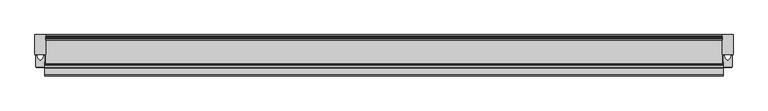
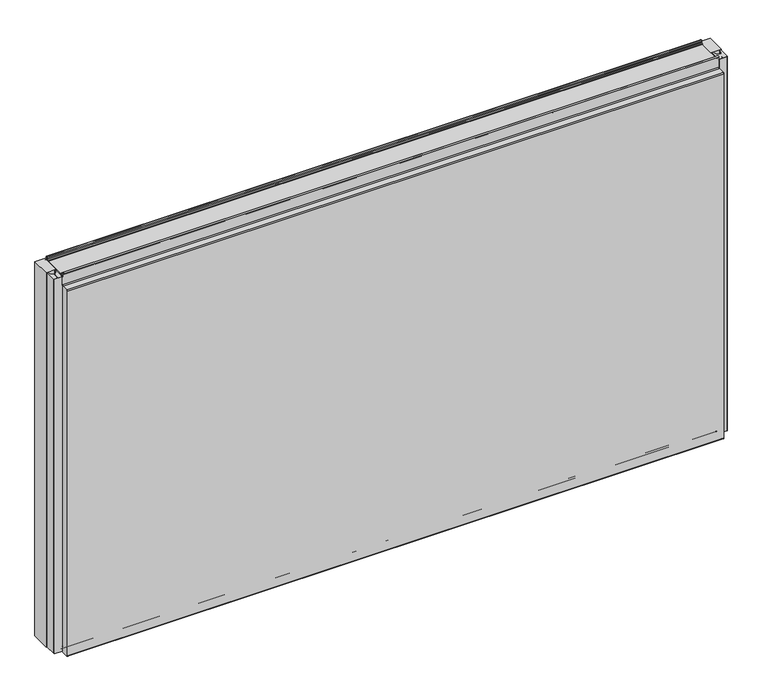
"""IFC4 building model written with IfcOpenShell, lengths in millimetres: plate geometry, Fronttop : Fronttop 120/1190."""

from ifc_helpers import new_model, si_unit, point, frame, frame_2d, origin, origin_with_axes, place, context, project, spatial, polyline, circle_curve, trimmed, segment, composite_curve, outline, extrude, source, transform, mapped, element, save
from ifc_brep_helpers import plane_surface, cylinder_surface, revolved_surface, advanced_brep


def plate_62cb37a9(model_context):
    return source(origin(), model_context, "Body", "SolidModel", [
        advanced_brep(
        [(-986.5, -94.0, 1198.0), (-986.5, -94.0, 1190.0), (-986.5, -95.0, 1190.0), (-986.5, -95.0, 1198.0), (-986.5, -90.0, 1198.0), (-986.5, -90.0, 1194.0), (-986.5, -87.0, 1191.0), (-986.5, -85.0, 1191.0), (-986.5, -85.0, 1190.0), (-986.5, -87.0, 1190.0), (-986.5, -91.0, 1194.0), (-986.5, -91.0, 1198.0), (986.5, -95.0, 1198.0), (986.5, -95.0, 1190.0), (986.5, -94.0, 1190.0), (986.5, -94.0, 1198.0), (986.5, -91.0, 1198.0), (986.5, -91.0, 1194.0), (986.5, -87.0, 1190.0), (986.5, -85.0, 1190.0), (986.5, -85.0, 1191.0), (986.5, -87.0, 1191.0), (986.5, -90.0, 1194.0), (986.5, -90.0, 1198.0), (-986.5, -87.0, 2.0), (-986.5, -85.0, 2.0), (986.5, -85.0, 2.0), (986.5, -87.0, 2.0), (986.5, -89.0, 4.0), (-986.5, -89.0, 4.0), (986.5, -89.0, 8.0), (-986.5, -89.0, 8.0), (986.5, -96.0, 8.0), (-986.5, -96.0, 8.0), (986.5, -96.0, 0.0), (-986.5, -96.0, 0.0), (986.5, -99.0, -3.0), (-986.5, -99.0, -3.0), (986.5, -95.0, -3.0), (987.5, -95.0, -3.0), (987.5, -117.0, -3.0), (986.5, -117.0, -3.0), (-986.5, -117.0, -3.0), (-987.5, -117.0, -3.0), (-987.5, -95.0, -3.0), (-986.5, -95.0, -3.0), (986.5, -120.0, 0.0), (-986.5, -120.0, 0.0), (987.5, -120.0, 0.0), (987.5, -120.0, 1159.0), (986.5, -120.0, 1159.0), (-986.5, -120.0, 1159.0), (-987.5, -120.0, 1159.0), (-987.5, -120.0, 0.0), (986.5, -117.0, 1162.0), (-986.5, -117.0, 1162.0), (987.5, -117.0, 1162.0), (987.5, -98.0, 1162.0), (986.5, -98.0, 1162.0), (-986.5, -98.0, 1162.0), (-987.5, -98.0, 1162.0), (-987.5, -117.0, 1162.0), (986.5, -95.0, 1165.0), (-986.5, -95.0, 1165.0), (987.5, -95.0, 1165.0), (987.5, -95.0, 1190.0), (-987.5, -95.0, 1190.0), (-987.5, -95.0, 1165.0), (986.5, -94.0, 1165.0), (-986.5, -94.0, 1165.0), (986.5, -98.0, 1161.0), (-986.5, -98.0, 1161.0), (986.5, -117.0, 1161.0), (-986.5, -117.0, 1161.0), (986.5, -119.0, 1159.0), (-986.5, -119.0, 1159.0), (986.5, -119.0, 0.0), (-986.5, -119.0, 0.0), (986.5, -117.0, -2.0), (-986.5, -117.0, -2.0), (986.5, -99.0, -2.0), (-986.5, -99.0, -2.0), (986.5, -97.0, 0.0), (-986.5, -97.0, 0.0), (986.5, -97.0, 8.0), (-986.5, -97.0, 8.0), (986.5, -88.0, 8.0), (-986.5, -88.0, 8.0), (986.5, -88.0, 4.0), (-986.5, -88.0, 4.0), (986.5, -87.0, 3.0), (-986.5, -87.0, 3.0), (986.5, -85.0, 3.0), (-986.5, -85.0, 3.0), (987.5, -95.0, 0.0), (987.5, -80.0, 0.0), (987.5, -80.0, 1190.0), (986.5, -80.0, 1190.0), (986.5, -80.0, 0.0), (986.5, -95.0, 0.0), (-987.5, -80.0, 1190.0), (-987.5, -80.0, 0.0), (-987.5, -95.0, 0.0), (-986.5, -80.0, 1190.0), (-986.5, -95.0, 0.0), (-986.5, -80.0, 0.0)],
        [
            (0, 1),
            (1, 2),
            (2, 3),
            (3, 4, circle_curve(frame((-986.5, -92.5, 1198.0), z_axis=(-1.0, 0.0, 0.0), x_axis=(0.0, 1.0, 0.0)), 2.5)),
            (4, 5),
            (5, 6, circle_curve(frame((-986.5, -87.0, 1194.0), z_axis=(1.0, 0.0, 0.0), x_axis=(0.0, 1.0, 0.0)), 3.0)),
            (6, 7),
            (7, 8),
            (8, 9),
            (9, 10, circle_curve(frame((-986.5, -87.0, 1194.0), z_axis=(-1.0, 0.0, 0.0), x_axis=(0.0, 1.0, 0.0)), 4.0)),
            (10, 11),
            (11, 0, circle_curve(frame((-986.5, -92.5, 1198.0), z_axis=(1.0, 0.0, 0.0), x_axis=(0.0, 1.0, 0.0)), 1.5)),
            (12, 13),
            (13, 14),
            (14, 15),
            (15, 16, circle_curve(frame((986.5, -92.5, 1198.0), z_axis=(-1.0, 0.0, 0.0), x_axis=(0.0, 1.0, 0.0)), 1.5)),
            (16, 17),
            (17, 18, circle_curve(frame((986.5, -87.0, 1194.0), z_axis=(1.0, 0.0, 0.0), x_axis=(0.0, 1.0, 0.0)), 4.0)),
            (18, 19),
            (19, 20),
            (20, 21),
            (21, 22, circle_curve(frame((986.5, -87.0, 1194.0), z_axis=(-1.0, 0.0, 0.0), x_axis=(0.0, 1.0, 0.0)), 3.0)),
            (22, 23),
            (23, 12, circle_curve(frame((986.5, -92.5, 1198.0), z_axis=(1.0, 0.0, 0.0), x_axis=(0.0, 1.0, 0.0)), 2.5)),
            (24, 25),
            (25, 26),
            (26, 27),
            (27, 24),
            (27, 28, circle_curve(frame((986.5, -87.0, 4.0), z_axis=(-1.0, 0.0, 0.0), x_axis=(0.0, 1.0, 0.0)), 2.0)),
            (28, 29),
            (29, 24, circle_curve(frame((-986.5, -87.0, 4.0), z_axis=(1.0, 0.0, 0.0), x_axis=(0.0, 1.0, 0.0)), 2.0)),
            (28, 30),
            (30, 31),
            (31, 29),
            (30, 32, circle_curve(frame((986.5, -92.5, 8.0), z_axis=(1.0, 0.0, 0.0), x_axis=(0.0, 1.0, 0.0)), 3.5)),
            (32, 33),
            (33, 31, circle_curve(frame((-986.5, -92.5, 8.0), z_axis=(-1.0, 0.0, 0.0), x_axis=(0.0, 1.0, 0.0)), 3.5)),
            (32, 34),
            (34, 35),
            (35, 33),
            (34, 36, circle_curve(frame((986.5, -99.0, 0.0), z_axis=(-1.0, 0.0, 0.0), x_axis=(0.0, 1.0, 0.0)), 3.0)),
            (36, 37),
            (37, 35, circle_curve(frame((-986.5, -99.0, 0.0), z_axis=(1.0, 0.0, 0.0), x_axis=(0.0, 1.0, 0.0)), 3.0)),
            (36, 38),
            (38, 39),
            (39, 40),
            (40, 41),
            (41, 42),
            (42, 43),
            (43, 44),
            (44, 45),
            (45, 37),
            (41, 46, circle_curve(frame((986.5, -117.0, 0.0), z_axis=(-1.0, 0.0, 0.0), x_axis=(0.0, 1.0, 0.0)), 3.0)),
            (46, 47),
            (47, 42, circle_curve(frame((-986.5, -117.0, 0.0), z_axis=(1.0, 0.0, 0.0), x_axis=(0.0, 1.0, 0.0)), 3.0)),
            (46, 48),
            (48, 49),
            (49, 50),
            (50, 51),
            (51, 52),
            (52, 53),
            (53, 47),
            (50, 54, circle_curve(frame((986.5, -117.0, 1159.0), z_axis=(-1.0, 0.0, 0.0), x_axis=(0.0, 1.0, 0.0)), 3.0)),
            (54, 55),
            (55, 51, circle_curve(frame((-986.5, -117.0, 1159.0), z_axis=(1.0, 0.0, 0.0), x_axis=(0.0, 1.0, 0.0)), 3.0)),
            (54, 56),
            (56, 57),
            (57, 58),
            (58, 59),
            (59, 60),
            (60, 61),
            (61, 55),
            (58, 62, circle_curve(frame((986.5, -98.0, 1165.0), z_axis=(1.0, 0.0, 0.0), x_axis=(0.0, 1.0, 0.0)), 3.0)),
            (62, 63),
            (63, 59, circle_curve(frame((-986.5, -98.0, 1165.0), z_axis=(-1.0, 0.0, 0.0), x_axis=(0.0, 1.0, 0.0)), 3.0)),
            (62, 64),
            (64, 65),
            (65, 13),
            (12, 3),
            (2, 66),
            (66, 67),
            (67, 63),
            (23, 4),
            (22, 5),
            (21, 6),
            (20, 7),
            (19, 8),
            (19, 18),
            (18, 9),
            (9, 8),
            (17, 10),
            (16, 11),
            (15, 0),
            (14, 68),
            (68, 69),
            (69, 1),
            (68, 70, circle_curve(frame((986.5, -98.0, 1165.0), z_axis=(-1.0, 0.0, 0.0), x_axis=(0.0, 1.0, 0.0)), 4.0)),
            (70, 71),
            (71, 69, circle_curve(frame((-986.5, -98.0, 1165.0), z_axis=(1.0, 0.0, 0.0), x_axis=(0.0, 1.0, 0.0)), 4.0)),
            (70, 72),
            (72, 73),
            (73, 71),
            (72, 74, circle_curve(frame((986.5, -117.0, 1159.0), z_axis=(1.0, 0.0, 0.0), x_axis=(0.0, 1.0, 0.0)), 2.0)),
            (74, 75),
            (75, 73, circle_curve(frame((-986.5, -117.0, 1159.0), z_axis=(-1.0, 0.0, 0.0), x_axis=(0.0, 1.0, 0.0)), 2.0)),
            (74, 76),
            (76, 77),
            (77, 75),
            (76, 78, circle_curve(frame((986.5, -117.0, 0.0), z_axis=(1.0, 0.0, 0.0), x_axis=(0.0, 1.0, 0.0)), 2.0)),
            (78, 79),
            (79, 77, circle_curve(frame((-986.5, -117.0, 0.0), z_axis=(-1.0, 0.0, 0.0), x_axis=(0.0, 1.0, 0.0)), 2.0)),
            (78, 80),
            (80, 81),
            (81, 79),
            (80, 82, circle_curve(frame((986.5, -99.0, 0.0), z_axis=(1.0, 0.0, 0.0), x_axis=(0.0, 1.0, 0.0)), 2.0)),
            (82, 83),
            (83, 81, circle_curve(frame((-986.5, -99.0, 0.0), z_axis=(-1.0, 0.0, 0.0), x_axis=(0.0, 1.0, 0.0)), 2.0)),
            (82, 84),
            (84, 85),
            (85, 83),
            (84, 86, circle_curve(frame((986.5, -92.5, 8.0), z_axis=(-1.0, 0.0, 0.0), x_axis=(0.0, 1.0, 0.0)), 4.5)),
            (86, 87),
            (87, 85, circle_curve(frame((-986.5, -92.5, 8.0), z_axis=(1.0, 0.0, 0.0), x_axis=(0.0, 1.0, 0.0)), 4.5)),
            (86, 88),
            (88, 89),
            (89, 87),
            (88, 90, circle_curve(frame((986.5, -87.0, 4.0), z_axis=(1.0, 0.0, 0.0), x_axis=(0.0, 1.0, 0.0)), 1.0)),
            (90, 91),
            (91, 89, circle_curve(frame((-986.5, -87.0, 4.0), z_axis=(-1.0, 0.0, 0.0), x_axis=(0.0, 1.0, 0.0)), 1.0)),
            (90, 92),
            (92, 93),
            (93, 91),
            (25, 93),
            (92, 26),
            (64, 57, circle_curve(frame((987.5, -98.0, 1165.0), z_axis=(-1.0, 0.0, 0.0), x_axis=(0.0, -1.0, 0.0)), 3.0)),
            (56, 49, circle_curve(frame((987.5, -117.0, 1159.0), z_axis=(1.0, 0.0, 0.0), x_axis=(0.0, -1.0, 0.0)), 3.0)),
            (48, 40, circle_curve(frame((987.5, -117.0, 0.0), z_axis=(1.0, 0.0, 0.0), x_axis=(0.0, -1.0, 0.0)), 3.0)),
            (39, 94),
            (94, 95),
            (95, 96),
            (96, 65),
            (14, 18),
            (19, 97),
            (97, 98),
            (98, 99),
            (99, 38),
            (96, 97),
            (95, 98),
            (94, 99),
            (66, 100),
            (100, 101),
            (101, 102),
            (102, 44),
            (43, 53, circle_curve(frame((-987.5, -117.0, 0.0), z_axis=(-1.0, 0.0, 0.0), x_axis=(0.0, -1.0, 0.0)), 3.0)),
            (52, 61, circle_curve(frame((-987.5, -117.0, 1159.0), z_axis=(-1.0, 0.0, 0.0), x_axis=(0.0, -1.0, 0.0)), 3.0)),
            (60, 67, circle_curve(frame((-987.5, -98.0, 1165.0), z_axis=(1.0, 0.0, 0.0), x_axis=(0.0, -1.0, 0.0)), 3.0)),
            (103, 8),
            (9, 1),
            (45, 104),
            (104, 105),
            (105, 103),
            (103, 100),
            (105, 101),
            (104, 102),
        ],
        [
            plane_surface(frame((-986.5, 0.0, 0.0), z_axis=(-1.0, 0.0, 0.0), x_axis=(0.0, 0.0, 1.0))),
            plane_surface(frame((986.5, 0.0, 0.0), z_axis=(1.0, 0.0, 0.0), x_axis=(0.0, 0.0, 1.0))),
            plane_surface(frame((-986.5, -87.0, 2.0), z_axis=(0.0, 0.0, -1.0), x_axis=(1.0, 0.0, 0.0))),
            cylinder_surface(frame((-986.5, -87.0, 4.0), z_axis=(-1.0, 0.0, 0.0), x_axis=(0.0, 1.0, 0.0)), 2.0),
            plane_surface(frame((-986.5, -89.0, 8.0), z_axis=(0.0, -1.0, 0.0), x_axis=(1.0, 0.0, 0.0))),
            revolved_surface(polyline([(986.5, -89.0, 8.0), (-986.5, -89.0, 8.0)]), (-986.5, -92.5, 8.0), (1.0, 0.0, 0.0)),
            plane_surface(frame((-986.5, -96.0, 0.0), z_axis=(0.0, 1.0, 0.0), x_axis=(1.0, 0.0, 0.0))),
            cylinder_surface(frame((-986.5, -99.0, 0.0), z_axis=(-1.0, 0.0, 0.0), x_axis=(0.0, 1.0, 0.0)), 3.0),
            plane_surface(frame((-986.5, -117.0, -3.0), z_axis=(0.0, 0.0, -1.0), x_axis=(1.0, 0.0, 0.0))),
            cylinder_surface(frame((-986.5, -117.0, 0.0), z_axis=(-1.0, 0.0, 0.0), x_axis=(0.0, 1.0, 0.0)), 3.0),
            plane_surface(frame((-986.5, -120.0, 1159.0), z_axis=(0.0, -1.0, 0.0), x_axis=(1.0, 0.0, 0.0))),
            cylinder_surface(frame((-986.5, -117.0, 1159.0), z_axis=(-1.0, 0.0, 0.0), x_axis=(0.0, 1.0, 0.0)), 3.0),
            plane_surface(frame((-986.5, -98.0, 1162.0), z_axis=(0.0, 0.0, 1.0), x_axis=(1.0, 0.0, 0.0))),
            revolved_surface(polyline([(986.5, -95.0, 1165.0), (-986.5, -95.0, 1165.0)]), (-986.5, -98.0, 1165.0), (1.0, 0.0, 0.0)),
            plane_surface(frame((-986.5, -95.0, 1198.0), z_axis=(0.0, -1.0, 0.0), x_axis=(1.0, 0.0, 0.0))),
            cylinder_surface(frame((-986.5, -92.5, 1198.0), z_axis=(-1.0, 0.0, 0.0), x_axis=(0.0, 1.0, 0.0)), 2.5),
            plane_surface(frame((-986.5, -90.0, 1194.0), z_axis=(0.0, 1.0, 0.0), x_axis=(1.0, 0.0, 0.0))),
            revolved_surface(polyline([(986.5, -84.0, 1194.0), (-986.5, -84.0, 1194.0)]), (-986.5, -87.0, 1194.0), (1.0, 0.0, 0.0)),
            plane_surface(frame((-986.5, -85.0, 1191.0), z_axis=(0.0, 0.0, 1.0), x_axis=(1.0, 0.0, 0.0))),
            plane_surface(frame((-986.5, -85.0, 1190.0), z_axis=(0.0, 1.0, 0.0), x_axis=(1.0, 0.0, 0.0))),
            plane_surface(frame((-986.5, -87.0, 1190.0), z_axis=(0.0, 0.0, -1.0), x_axis=(1.0, 0.0, 0.0))),
            cylinder_surface(frame((-986.5, -87.0, 1194.0), z_axis=(-1.0, 0.0, 0.0), x_axis=(0.0, 1.0, 0.0)), 4.0),
            plane_surface(frame((-986.5, -91.0, 1198.0), z_axis=(0.0, -1.0, 0.0), x_axis=(1.0, 0.0, 0.0))),
            revolved_surface(polyline([(986.5, -91.0, 1198.0), (-986.5, -91.0, 1198.0)]), (-986.5, -92.5, 1198.0), (1.0, 0.0, 0.0)),
            plane_surface(frame((-986.5, -94.0, 1165.0), z_axis=(0.0, 1.0, 0.0), x_axis=(1.0, 0.0, 0.0))),
            cylinder_surface(frame((-986.5, -98.0, 1165.0), z_axis=(-1.0, 0.0, 0.0), x_axis=(0.0, 1.0, 0.0)), 4.0),
            plane_surface(frame((-986.5, -117.0, 1161.0), z_axis=(0.0, 0.0, -1.0), x_axis=(1.0, 0.0, 0.0))),
            revolved_surface(polyline([(986.5, -115.0, 1159.0), (-986.5, -115.0, 1159.0)]), (-986.5, -117.0, 1159.0), (1.0, 0.0, 0.0)),
            plane_surface(frame((-986.5, -119.0, 0.0), z_axis=(0.0, 1.0, 0.0), x_axis=(1.0, 0.0, 0.0))),
            revolved_surface(polyline([(986.5, -115.0, 0.0), (-986.5, -115.0, 0.0)]), (-986.5, -117.0, 0.0), (1.0, 0.0, 0.0)),
            plane_surface(frame((-986.5, -99.0, -2.0), z_axis=(0.0, 0.0, 1.0), x_axis=(1.0, 0.0, 0.0))),
            revolved_surface(polyline([(986.5, -97.0, 0.0), (-986.5, -97.0, 0.0)]), (-986.5, -99.0, 0.0), (1.0, 0.0, 0.0)),
            plane_surface(frame((-986.5, -97.0, 8.0), z_axis=(0.0, -1.0, 0.0), x_axis=(1.0, 0.0, 0.0))),
            cylinder_surface(frame((-986.5, -92.5, 8.0), z_axis=(-1.0, 0.0, 0.0), x_axis=(0.0, 1.0, 0.0)), 4.5),
            plane_surface(frame((-986.5, -88.0, 4.0), z_axis=(0.0, 1.0, 0.0), x_axis=(1.0, 0.0, 0.0))),
            revolved_surface(polyline([(986.5, -86.0, 4.0), (-986.5, -86.0, 4.0)]), (-986.5, -87.0, 4.0), (1.0, 0.0, 0.0)),
            plane_surface(frame((-986.5, -85.0, 3.0), z_axis=(0.0, 0.0, 1.0), x_axis=(1.0, 0.0, 0.0))),
            plane_surface(frame((-986.5, -85.0, 2.0), z_axis=(0.0, 1.0, 0.0), x_axis=(1.0, 0.0, 0.0))),
            plane_surface(frame((987.5, -95.0, 1190.0), z_axis=(1.0, 0.0, 0.0), x_axis=(0.0, 1.0, 0.0))),
            plane_surface(frame((986.5, -95.0, 1190.0), z_axis=(-1.0, 0.0, 0.0), x_axis=(0.0, -1.0, 0.0))),
            plane_surface(frame((987.5, -95.0, 1190.0), z_axis=(0.0, 0.0, 1.0), x_axis=(-1.0, 0.0, 0.0))),
            plane_surface(frame((987.5, -80.0, 1190.0), z_axis=(0.0, 1.0, 0.0), x_axis=(-1.0, 0.0, 0.0))),
            plane_surface(frame((987.5, -80.0, 0.0), z_axis=(0.0, 0.0, -1.0), x_axis=(-1.0, 0.0, 0.0))),
            cylinder_surface(frame((986.5, -117.0, 0.0), z_axis=(1.0, 0.0, 0.0), x_axis=(0.0, -1.0, 0.0)), 3.0),
            cylinder_surface(frame((986.5, -117.0, 1159.0), z_axis=(1.0, 0.0, 0.0), x_axis=(0.0, -1.0, 0.0)), 3.0),
            revolved_surface(polyline([(986.5, -101.0, 1165.0), (987.5, -101.0, 1165.0)]), (986.5, -98.0, 1165.0), (-1.0, 0.0, 0.0)),
            plane_surface(frame((-987.5, -95.0, 1190.0), z_axis=(-1.0, 0.0, 0.0), x_axis=(0.0, -1.0, 0.0))),
            plane_surface(frame((-986.5, -95.0, 1190.0), z_axis=(1.0, 0.0, 0.0), x_axis=(0.0, 1.0, 0.0))),
            plane_surface(frame((-986.5, -95.0, 1190.0), z_axis=(0.0, 0.0, 1.0), x_axis=(-1.0, 0.0, 0.0))),
            plane_surface(frame((-986.5, -80.0, 1190.0), z_axis=(0.0, 1.0, 0.0), x_axis=(-1.0, 0.0, 0.0))),
            plane_surface(frame((-986.5, -80.0, 0.0), z_axis=(0.0, 0.0, -1.0), x_axis=(-1.0, 0.0, 0.0))),
            cylinder_surface(frame((-987.5, -117.0, 0.0), z_axis=(1.0, 0.0, 0.0), x_axis=(0.0, -1.0, 0.0)), 3.0),
            cylinder_surface(frame((-987.5, -117.0, 1159.0), z_axis=(1.0, 0.0, 0.0), x_axis=(0.0, -1.0, 0.0)), 3.0),
            revolved_surface(polyline([(-987.5, -101.0, 1165.0), (-986.5, -101.0, 1165.0)]), (-987.5, -98.0, 1165.0), (-1.0, 0.0, 0.0)),
            plane_surface(frame((987.5, -95.0, 0.0), z_axis=(0.0, 1.0, 0.0), x_axis=(-1.0, 0.0, 0.0))),
            plane_surface(frame((-986.5, -95.0, 0.0), z_axis=(0.0, 1.0, 0.0), x_axis=(-1.0, 0.0, 0.0))),
        ],
        [
            (0, [[1, 2, 3, 4, 5, 6, 7, 8, 9, 10, 11, 12]]),
            (1, [[13, 14, 15, 16, 17, 18, 19, 20, 21, 22, 23, 24]]),
            (2, [[25, 26, 27, 28]]),
            (3, [[29, 30, 31, -28]]),
            (4, [[32, 33, 34, -30]]),
            (5, [[35, 36, 37, -33]]),
            (6, [[38, 39, 40, -36]]),
            (7, [[41, 42, 43, -39]]),
            (8, [[44, 45, 46, 47, 48, 49, 50, 51, 52, -42]]),
            (9, [[53, 54, 55, -48]]),
            (10, [[56, 57, 58, 59, 60, 61, 62, -54]]),
            (11, [[63, 64, 65, -59]]),
            (12, [[66, 67, 68, 69, 70, 71, 72, -64]]),
            (13, [[73, 74, 75, -69]]),
            (14, [[76, 77, 78, -13, 79, -3, 80, 81, 82, -74]]),
            (15, [[-79, -24, 83, -4]]),
            (16, [[-83, -23, 84, -5]]),
            (17, [[-84, -22, 85, -6]]),
            (18, [[-85, -21, 86, -7]]),
            (19, [[-86, -20, 87, -8]]),
            (20, [[88, 89, 90, -87]]),
            (21, [[-89, -18, 91, -10]]),
            (22, [[-91, -17, 92, -11]]),
            (23, [[-92, -16, 93, -12]]),
            (24, [[-15, 94, 95, 96, -1, -93]]),
            (25, [[97, 98, 99, -95]]),
            (26, [[100, 101, 102, -98]]),
            (27, [[103, 104, 105, -101]]),
            (28, [[106, 107, 108, -104]]),
            (29, [[109, 110, 111, -107]]),
            (30, [[112, 113, 114, -110]]),
            (31, [[115, 116, 117, -113]]),
            (32, [[118, 119, 120, -116]]),
            (33, [[121, 122, 123, -119]]),
            (34, [[124, 125, 126, -122]]),
            (35, [[127, 128, 129, -125]]),
            (36, [[130, 131, 132, -128]]),
            (37, [[133, -131, 134, -26]]),
            (38, [[-77, 135, -67, 136, -57, 137, -46, 138, 139, 140, 141]]),
            (39, [[-44, -41, -38, -35, -32, -29, -27, -134, -130, -127, -124, -121, -118, -115, -112, -109, -106, -103, -100, -97, -94, 142, -88, 143, 144, 145, 146]]),
            (40, [[147, -143, -19, -142, -14, -78, -141]]),
            (41, [[148, -144, -147, -140]]),
            (42, [[149, -145, -148, -139]]),
            (43, [[-56, -53, -47, -137]]),
            (44, [[-66, -63, -58, -136]]),
            (45, [[-76, -73, -68, -135]]),
            (46, [[150, 151, 152, 153, -50, 154, -61, 155, -71, 156, -81]]),
            (47, [[157, -90, 158, -96, -99, -102, -105, -108, -111, -114, -117, -120, -123, -126, -129, -132, -133, -25, -31, -34, -37, -40, -43, -52, 159, 160, 161]]),
            (48, [[-80, -2, -158, -9, -157, 162, -150]]),
            (49, [[-162, -161, 163, -151]]),
            (50, [[-163, -160, 164, -152]]),
            (51, [[-49, -55, -62, -154]]),
            (52, [[-60, -65, -72, -155]]),
            (53, [[-70, -75, -82, -156]]),
            (54, [[-45, -146, -149, -138]]),
            (55, [[-164, -159, -51, -153]]),
        ],
    ),
        extrude(outline(composite_curve([segment(polyline([(-1012.5001545, -93.5), (-1012.5001545, -60.0), (-1009.75, -60.0), (-1009.75, -62.5)]), True, "CONTINUOUS"), segment(trimmed(circle_curve(frame_2d((-991.9661979, -59.3183984)), 18.0661619), [point((-1009.75, -62.5))], [point((-1000.0, -75.5))], True, "CARTESIAN"), True, "CONTINUOUS"), segment(trimmed(circle_curve(frame_2d((-1008.0338021, -59.3183984)), 18.0661619), [point((-1000.0, -75.5))], [point((-990.25, -62.5))], True, "CARTESIAN"), True, "CONTINUOUS"), segment(polyline([(-990.25, -62.5), (-990.25, -60.0), (-987.4998455, -60.0), (-987.4998455, -93.5), (-999.25, -93.5), (-999.25, -77.5), (-1000.75, -77.5), (-1000.75, -93.5), (-1012.5001545, -93.5)]), True, "CONTINUOUS")], self_intersect=False)), origin_with_axes(), (0.0, 0.0, 1.0), 1190.0),
        extrude(outline(polyline([(-984.5, 0.0), (-984.5, -58.0), (-1015.5, -58.0), (-1015.5, 0.0), (-984.5, 0.0)])), origin_with_axes(), (0.0, 0.0, 1.0), 1190.0),
        extrude(outline(polyline([(-1011.5051154, -95.0), (-1011.5051154, -93.5), (-1000.65, -93.5), (-1000.65, -79.0759655), (-999.3497504, -79.0759655), (-999.3497504, -93.5), (-988.4948846, -93.5), (-988.4948846, -95.0), (-1011.5051154, -95.0)])), origin_with_axes(), (0.0, 0.0, 1.0), 1190.0),
        extrude(outline(composite_curve([segment(polyline([(987.4998455, -93.5), (987.4998455, -60.0), (990.25, -60.0), (990.25, -62.5)]), True, "CONTINUOUS"), segment(trimmed(circle_curve(frame_2d((1008.0338021, -59.3183984)), 18.0661619), [point((990.25, -62.5))], [point((1000.0, -75.5))], True, "CARTESIAN"), True, "CONTINUOUS"), segment(trimmed(circle_curve(frame_2d((991.9661979, -59.3183984)), 18.0661619), [point((1000.0, -75.5))], [point((1009.75, -62.5))], True, "CARTESIAN"), True, "CONTINUOUS"), segment(polyline([(1009.75, -62.5), (1009.75, -60.0), (1012.5001545, -60.0), (1012.5001545, -93.5), (1000.75, -93.5), (1000.75, -77.5), (999.25, -77.5), (999.25, -93.5), (987.4998455, -93.5)]), True, "CONTINUOUS")], self_intersect=False)), origin_with_axes(), (0.0, 0.0, 1.0), 1190.0),
        extrude(outline(polyline([(1015.5, 0.0), (1015.5, -58.0), (984.5, -58.0), (984.5, 0.0), (1015.5, 0.0)])), origin_with_axes(), (0.0, 0.0, 1.0), 1190.0),
        extrude(outline(polyline([(988.4948846, -95.0), (988.4948846, -93.5), (999.35, -93.5), (999.35, -79.0759655), (1000.6502496, -79.0759655), (1000.6502496, -93.5), (1011.5051154, -93.5), (1011.5051154, -95.0), (988.4948846, -95.0)])), origin_with_axes(), (0.0, 0.0, 1.0), 1190.0),
        advanced_brep(
        [(-984.5, -13.0, 1191.0), (-984.5, -10.0, 1194.0), (-984.5, -10.0, 1198.0), (-984.5, -5.0, 1198.0), (-984.5, -5.0, 1189.5), (-984.5, -2.2239212, 1187.0152907), (-984.5, 0.0, 1185.0), (-984.5, 0.0, -0.5), (-984.5, -4.0, -0.5), (-984.5, -4.0, 8.0), (-984.5, -11.0, 8.0), (-984.5, -11.0, 4.0), (-984.5, -13.0, 2.0), (-984.5, -15.0, 2.0), (-984.5, -15.0, 3.0), (-984.5, -13.0, 3.0), (-984.5, -12.0, 4.0), (-984.5, -12.0, 8.0), (-984.5, -3.0, 8.0), (-984.5, -3.0, -0.5), (-984.5, -1.0, -0.5), (-984.5, -1.0, 1185.0), (-984.5, -2.1104315, 1185.9938837), (-984.5, -6.0, 1189.5), (-984.5, -6.0, 1198.0), (-984.5, -9.0, 1198.0), (-984.5, -9.0, 1194.0), (-984.5, -13.0, 1190.0), (-984.5, -15.0, 1190.0), (-984.5, -15.0, 1191.0), (984.5, -13.0, 1191.0), (984.5, -15.0, 1191.0), (984.5, -15.0, 1190.0), (984.5, -13.0, 1190.0), (984.5, -9.0, 1194.0), (984.5, -9.0, 1198.0), (984.5, -6.0, 1198.0), (984.5, -6.0, 1189.5), (984.5, -2.1134897, 1186.0214069), (984.5, -1.0, 1185.0), (984.5, -1.0, -0.5), (984.5, -3.0, -0.5), (984.5, -3.0, 8.0), (984.5, -12.0, 8.0), (984.5, -12.0, 4.0), (984.5, -13.0, 3.0), (984.5, -15.0, 3.0), (984.5, -15.0, 2.0), (984.5, -13.0, 2.0), (984.5, -11.0, 4.0), (984.5, -11.0, 8.0), (984.5, -4.0, 8.0), (984.5, -4.0, -0.5), (984.5, 0.0, -0.5), (984.5, 0.0, 1185.0), (984.5, -2.220863, 1186.9877675), (984.5, -5.0, 1189.5), (984.5, -5.0, 1198.0), (984.5, -10.0, 1198.0), (984.5, -10.0, 1194.0)],
        [
            (0, 1, circle_curve(frame((-984.5, -13.0, 1194.0), z_axis=(1.0, 0.0, 0.0), x_axis=(0.0, 1.0, 0.0)), 3.0)),
            (1, 2),
            (2, 3, circle_curve(frame((-984.5, -7.5, 1198.0), z_axis=(-1.0, 0.0, 0.0), x_axis=(0.0, 1.0, 0.0)), 2.5)),
            (3, 4),
            (4, 5, circle_curve(frame((-984.5, -2.5, 1189.5), z_axis=(1.0, 0.0, 0.0), x_axis=(0.0, 1.0, 0.0)), 2.5)),
            (5, 6, circle_curve(frame((-984.5, -2.0, 1185.0), z_axis=(-1.0, 0.0, 0.0), x_axis=(0.0, 1.0, 0.0)), 2.0)),
            (6, 7),
            (7, 8, circle_curve(frame((-984.5, -2.0, -0.5), z_axis=(-1.0, 0.0, 0.0), x_axis=(0.0, 1.0, 0.0)), 2.0)),
            (8, 9),
            (9, 10, circle_curve(frame((-984.5, -7.5, 8.0), z_axis=(1.0, 0.0, 0.0), x_axis=(0.0, 1.0, 0.0)), 3.5)),
            (10, 11),
            (11, 12, circle_curve(frame((-984.5, -13.0, 4.0), z_axis=(-1.0, 0.0, 0.0), x_axis=(0.0, 1.0, 0.0)), 2.0)),
            (12, 13),
            (13, 14),
            (14, 15),
            (15, 16, circle_curve(frame((-984.5, -13.0, 4.0), z_axis=(1.0, 0.0, 0.0), x_axis=(0.0, 1.0, 0.0)), 1.0)),
            (16, 17),
            (17, 18, circle_curve(frame((-984.5, -7.5, 8.0), z_axis=(-1.0, 0.0, 0.0), x_axis=(0.0, 1.0, 0.0)), 4.5)),
            (18, 19),
            (19, 20, circle_curve(frame((-984.5, -2.0, -0.5), z_axis=(1.0, 0.0, 0.0), x_axis=(0.0, 1.0, 0.0)), 1.0)),
            (20, 21),
            (21, 22, circle_curve(frame((-984.5, -2.0, 1185.0), z_axis=(1.0, 0.0, 0.0), x_axis=(0.0, 1.0, 0.0)), 1.0)),
            (22, 23, circle_curve(frame((-984.5, -2.5, 1189.5), z_axis=(-1.0, 0.0, 0.0), x_axis=(0.0, 1.0, 0.0)), 3.5)),
            (23, 24),
            (24, 25, circle_curve(frame((-984.5, -7.5, 1198.0), z_axis=(1.0, 0.0, 0.0), x_axis=(0.0, 1.0, 0.0)), 1.5)),
            (25, 26),
            (26, 27, circle_curve(frame((-984.5, -13.0, 1194.0), z_axis=(-1.0, 0.0, 0.0), x_axis=(0.0, 1.0, 0.0)), 4.0)),
            (27, 28),
            (28, 29),
            (29, 0),
            (30, 31),
            (31, 32),
            (32, 33),
            (33, 34, circle_curve(frame((984.5, -13.0, 1194.0), z_axis=(1.0, 0.0, 0.0), x_axis=(0.0, 1.0, 0.0)), 4.0)),
            (34, 35),
            (35, 36, circle_curve(frame((984.5, -7.5, 1198.0), z_axis=(-1.0, 0.0, 0.0), x_axis=(0.0, 1.0, 0.0)), 1.5)),
            (36, 37),
            (37, 38, circle_curve(frame((984.5, -2.5, 1189.5), z_axis=(1.0, 0.0, 0.0), x_axis=(0.0, 1.0, 0.0)), 3.5)),
            (38, 39, circle_curve(frame((984.5, -2.0, 1185.0), z_axis=(-1.0, 0.0, 0.0), x_axis=(0.0, 1.0, 0.0)), 1.0)),
            (39, 40),
            (40, 41, circle_curve(frame((984.5, -2.0, -0.5), z_axis=(-1.0, 0.0, 0.0), x_axis=(0.0, 1.0, 0.0)), 1.0)),
            (41, 42),
            (42, 43, circle_curve(frame((984.5, -7.5, 8.0), z_axis=(1.0, 0.0, 0.0), x_axis=(0.0, 1.0, 0.0)), 4.5)),
            (43, 44),
            (44, 45, circle_curve(frame((984.5, -13.0, 4.0), z_axis=(-1.0, 0.0, 0.0), x_axis=(0.0, 1.0, 0.0)), 1.0)),
            (45, 46),
            (46, 47),
            (47, 48),
            (48, 49, circle_curve(frame((984.5, -13.0, 4.0), z_axis=(1.0, 0.0, 0.0), x_axis=(0.0, 1.0, 0.0)), 2.0)),
            (49, 50),
            (50, 51, circle_curve(frame((984.5, -7.5, 8.0), z_axis=(-1.0, 0.0, 0.0), x_axis=(0.0, 1.0, 0.0)), 3.5)),
            (51, 52),
            (52, 53, circle_curve(frame((984.5, -2.0, -0.5), z_axis=(1.0, 0.0, 0.0), x_axis=(0.0, 1.0, 0.0)), 2.0)),
            (53, 54),
            (54, 55, circle_curve(frame((984.5, -2.0, 1185.0), z_axis=(1.0, 0.0, 0.0), x_axis=(0.0, 1.0, 0.0)), 2.0)),
            (55, 56, circle_curve(frame((984.5, -2.5, 1189.5), z_axis=(-1.0, 0.0, 0.0), x_axis=(0.0, 1.0, 0.0)), 2.5)),
            (56, 57),
            (57, 58, circle_curve(frame((984.5, -7.5, 1198.0), z_axis=(1.0, 0.0, 0.0), x_axis=(0.0, 1.0, 0.0)), 2.5)),
            (58, 59),
            (59, 30, circle_curve(frame((984.5, -13.0, 1194.0), z_axis=(-1.0, 0.0, 0.0), x_axis=(0.0, 1.0, 0.0)), 3.0)),
            (29, 31),
            (30, 0),
            (28, 32),
            (27, 33),
            (26, 34),
            (25, 35),
            (24, 36),
            (23, 37),
            (22, 38),
            (21, 39),
            (20, 40),
            (19, 41),
            (18, 42),
            (17, 43),
            (16, 44),
            (15, 45),
            (14, 46),
            (13, 47),
            (12, 48),
            (11, 49),
            (10, 50),
            (9, 51),
            (8, 52),
            (7, 53),
            (6, 54),
            (5, 55),
            (4, 56),
            (3, 57),
            (2, 58),
            (1, 59),
        ],
        [
            plane_surface(frame((-984.5, 0.0, 0.0), z_axis=(-1.0, 0.0, 0.0), x_axis=(0.0, 0.0, 1.0))),
            plane_surface(frame((984.5, 0.0, 0.0), z_axis=(1.0, 0.0, 0.0), x_axis=(0.0, 0.0, 1.0))),
            plane_surface(frame((-984.5, -13.0, 1191.0), z_axis=(0.0, 0.0, 1.0), x_axis=(1.0, 0.0, 0.0))),
            plane_surface(frame((-984.5, -15.0, 1191.0), z_axis=(0.0, -1.0, 0.0), x_axis=(1.0, 0.0, 0.0))),
            plane_surface(frame((-984.5, -15.0, 1190.0), z_axis=(0.0, 0.0, -1.0), x_axis=(1.0, 0.0, 0.0))),
            cylinder_surface(frame((-984.5, -13.0, 1194.0), z_axis=(-1.0, 0.0, 0.0), x_axis=(0.0, 1.0, 0.0)), 4.0),
            plane_surface(frame((-984.5, -9.0, 1194.0), z_axis=(0.0, 1.0, 0.0), x_axis=(1.0, 0.0, 0.0))),
            revolved_surface(polyline([(984.5, -6.0, 1198.0), (-984.5, -6.0, 1198.0)]), (-984.5, -7.5, 1198.0), (1.0, 0.0, 0.0)),
            plane_surface(frame((-984.5, -6.0, 1198.0), z_axis=(0.0, -1.0, 0.0), x_axis=(1.0, 0.0, 0.0))),
            cylinder_surface(frame((-984.5, -2.5, 1189.5), z_axis=(-1.0, 0.0, 0.0), x_axis=(0.0, 1.0, 0.0)), 3.5),
            revolved_surface(polyline([(984.5, -1.0, 1185.0), (-984.5, -1.0, 1185.0)]), (-984.5, -2.0, 1185.0), (1.0, 0.0, 0.0)),
            plane_surface(frame((-984.5, -1.0, 1185.0), z_axis=(0.0, -1.0, 0.0), x_axis=(1.0, 0.0, 0.0))),
            revolved_surface(polyline([(984.5, -1.0, -0.5), (-984.5, -1.0, -0.5)]), (-984.5, -2.0, -0.5), (1.0, 0.0, 0.0)),
            plane_surface(frame((-984.5, -3.0, -0.5), z_axis=(0.0, 1.0, 0.0), x_axis=(1.0, 0.0, 0.0))),
            cylinder_surface(frame((-984.5, -7.5, 8.0), z_axis=(-1.0, 0.0, 0.0), x_axis=(0.0, 1.0, 0.0)), 4.5),
            plane_surface(frame((-984.5, -12.0, 8.0), z_axis=(0.0, -1.0, 0.0), x_axis=(1.0, 0.0, 0.0))),
            revolved_surface(polyline([(984.5, -12.0, 4.0), (-984.5, -12.0, 4.0)]), (-984.5, -13.0, 4.0), (1.0, 0.0, 0.0)),
            plane_surface(frame((-984.5, -13.0, 3.0), z_axis=(0.0, 0.0, 1.0), x_axis=(1.0, 0.0, 0.0))),
            plane_surface(frame((-984.5, -15.0, 3.0), z_axis=(0.0, -1.0, 0.0), x_axis=(1.0, 0.0, 0.0))),
            plane_surface(frame((-984.5, -15.0, 2.0), z_axis=(0.0, 0.0, -1.0), x_axis=(1.0, 0.0, 0.0))),
            cylinder_surface(frame((-984.5, -13.0, 4.0), z_axis=(-1.0, 0.0, 0.0), x_axis=(0.0, 1.0, 0.0)), 2.0),
            plane_surface(frame((-984.5, -11.0, 4.0), z_axis=(0.0, 1.0, 0.0), x_axis=(1.0, 0.0, 0.0))),
            revolved_surface(polyline([(984.5, -4.0, 8.0), (-984.5, -4.0, 8.0)]), (-984.5, -7.5, 8.0), (1.0, 0.0, 0.0)),
            plane_surface(frame((-984.5, -4.0, 8.0), z_axis=(0.0, -1.0, 0.0), x_axis=(1.0, 0.0, 0.0))),
            cylinder_surface(frame((-984.5, -2.0, -0.5), z_axis=(-1.0, 0.0, 0.0), x_axis=(0.0, 1.0, 0.0)), 2.0),
            plane_surface(frame((-984.5, 0.0, -0.5), z_axis=(0.0, 1.0, 0.0), x_axis=(1.0, 0.0, 0.0))),
            cylinder_surface(frame((-984.5, -2.0, 1185.0), z_axis=(-1.0, 0.0, 0.0), x_axis=(0.0, 1.0, 0.0)), 2.0),
            revolved_surface(polyline([(984.5, 0.0, 1189.5), (-984.5, 0.0, 1189.5)]), (-984.5, -2.5, 1189.5), (1.0, 0.0, 0.0)),
            plane_surface(frame((-984.5, -5.0, 1189.5), z_axis=(0.0, 1.0, 0.0), x_axis=(1.0, 0.0, 0.0))),
            cylinder_surface(frame((-984.5, -7.5, 1198.0), z_axis=(-1.0, 0.0, 0.0), x_axis=(0.0, 1.0, 0.0)), 2.5),
            plane_surface(frame((-984.5, -10.0, 1198.0), z_axis=(0.0, -1.0, 0.0), x_axis=(1.0, 0.0, 0.0))),
            revolved_surface(polyline([(984.5, -10.0, 1194.0), (-984.5, -10.0, 1194.0)]), (-984.5, -13.0, 1194.0), (1.0, 0.0, 0.0)),
        ],
        [
            (0, [[1, 2, 3, 4, 5, 6, 7, 8, 9, 10, 11, 12, 13, 14, 15, 16, 17, 18, 19, 20, 21, 22, 23, 24, 25, 26, 27, 28, 29, 30]]),
            (1, [[31, 32, 33, 34, 35, 36, 37, 38, 39, 40, 41, 42, 43, 44, 45, 46, 47, 48, 49, 50, 51, 52, 53, 54, 55, 56, 57, 58, 59, 60]]),
            (2, [[61, -31, 62, -30]]),
            (3, [[63, -32, -61, -29]]),
            (4, [[64, -33, -63, -28]]),
            (5, [[65, -34, -64, -27]]),
            (6, [[66, -35, -65, -26]]),
            (7, [[67, -36, -66, -25]]),
            (8, [[68, -37, -67, -24]]),
            (9, [[69, -38, -68, -23]]),
            (10, [[70, -39, -69, -22]]),
            (11, [[71, -40, -70, -21]]),
            (12, [[72, -41, -71, -20]]),
            (13, [[73, -42, -72, -19]]),
            (14, [[74, -43, -73, -18]]),
            (15, [[75, -44, -74, -17]]),
            (16, [[76, -45, -75, -16]]),
            (17, [[77, -46, -76, -15]]),
            (18, [[78, -47, -77, -14]]),
            (19, [[79, -48, -78, -13]]),
            (20, [[80, -49, -79, -12]]),
            (21, [[81, -50, -80, -11]]),
            (22, [[82, -51, -81, -10]]),
            (23, [[83, -52, -82, -9]]),
            (24, [[84, -53, -83, -8]]),
            (25, [[85, -54, -84, -7]]),
            (26, [[86, -55, -85, -6]]),
            (27, [[87, -56, -86, -5]]),
            (28, [[88, -57, -87, -4]]),
            (29, [[89, -58, -88, -3]]),
            (30, [[90, -59, -89, -2]]),
            (31, [[-62, -60, -90, -1]]),
        ],
    ),
        extrude(outline(composite_curve([segment(polyline([(-15.0, 3.0), (-15.0, 0.0), (-85.0, 0.0), (-85.0, 3.0), (-87.0, 3.0)]), True, "CONTINUOUS"), segment(trimmed(circle_curve(frame_2d((-87.0, 4.0)), 1.0), [point((-87.0, 3.0))], [point((-88.0, 4.0))], False, "CARTESIAN"), True, "CONTINUOUS"), segment(polyline([(-88.0, 4.0), (-88.0, 8.0)]), True, "CONTINUOUS"), segment(trimmed(circle_curve(frame_2d((-92.5, 8.0)), 4.5), [point((-88.0, 8.0))], [point((-97.0, 8.0))], True, "CARTESIAN"), True, "CONTINUOUS"), segment(polyline([(-97.0, 8.0), (-97.0, 0.0)]), True, "CONTINUOUS"), segment(trimmed(circle_curve(frame_2d((-99.0, 0.0)), 2.0), [point((-97.0, 0.0))], [point((-99.0, -2.0))], False, "CARTESIAN"), True, "CONTINUOUS"), segment(polyline([(-99.0, -2.0), (-117.0, -2.0)]), True, "CONTINUOUS"), segment(trimmed(circle_curve(frame_2d((-117.0, 0.0)), 2.0), [point((-117.0, -2.0))], [point((-119.0, 0.0))], False, "CARTESIAN"), True, "CONTINUOUS"), segment(polyline([(-119.0, 0.0), (-119.0, 1159.0)]), True, "CONTINUOUS"), segment(trimmed(circle_curve(frame_2d((-117.0, 1159.0)), 2.0), [point((-119.0, 1159.0))], [point((-117.0, 1161.0))], False, "CARTESIAN"), True, "CONTINUOUS"), segment(polyline([(-117.0, 1161.0), (-98.0, 1161.0)]), True, "CONTINUOUS"), segment(trimmed(circle_curve(frame_2d((-98.0, 1165.0)), 4.0), [point((-98.0, 1161.0))], [point((-94.0, 1165.0))], True, "CARTESIAN"), True, "CONTINUOUS"), segment(polyline([(-94.0, 1165.0), (-94.0, 1198.0)]), True, "CONTINUOUS"), segment(trimmed(circle_curve(frame_2d((-92.5, 1198.0)), 1.5), [point((-94.0, 1198.0))], [point((-91.0, 1198.0))], False, "CARTESIAN"), True, "CONTINUOUS"), segment(polyline([(-91.0, 1198.0), (-91.0, 1194.0)]), True, "CONTINUOUS"), segment(trimmed(circle_curve(frame_2d((-87.0, 1194.0)), 4.0), [point((-91.0, 1194.0))], [point((-87.0, 1190.0))], True, "CARTESIAN"), True, "CONTINUOUS"), segment(polyline([(-87.0, 1190.0), (-13.0, 1190.0)]), True, "CONTINUOUS"), segment(trimmed(circle_curve(frame_2d((-13.0, 1194.0)), 4.0), [point((-13.0, 1190.0))], [point((-9.0, 1194.0))], True, "CARTESIAN"), True, "CONTINUOUS"), segment(polyline([(-9.0, 1194.0), (-9.0, 1198.0)]), True, "CONTINUOUS"), segment(trimmed(circle_curve(frame_2d((-7.5, 1198.0)), 1.5), [point((-9.0, 1198.0))], [point((-6.0, 1198.0))], False, "CARTESIAN"), True, "CONTINUOUS"), segment(polyline([(-6.0, 1198.0), (-6.0, 1189.5)]), True, "CONTINUOUS"), segment(trimmed(circle_curve(frame_2d((-2.5, 1189.5)), 3.5), [point((-6.0, 1189.5))], [point((-2.1111111, 1186.021672))], True, "CARTESIAN"), True, "CONTINUOUS"), segment(trimmed(circle_curve(frame_2d((-2.0, 1185.0278643)), 1.0), [point((-2.1111111, 1186.021672))], [point((-1.0, 1185.0278643))], False, "CARTESIAN"), True, "CONTINUOUS"), segment(polyline([(-1.0, 1185.0278643), (-1.0, -0.5)]), True, "CONTINUOUS"), segment(trimmed(circle_curve(frame_2d((-2.0, -0.5)), 1.0), [point((-1.0, -0.5))], [point((-3.0, -0.5))], False, "CARTESIAN"), True, "CONTINUOUS"), segment(polyline([(-3.0, -0.5), (-3.0, 8.0)]), True, "CONTINUOUS"), segment(trimmed(circle_curve(frame_2d((-7.5, 8.0)), 4.5), [point((-3.0, 8.0))], [point((-12.0, 8.0))], True, "CARTESIAN"), True, "CONTINUOUS"), segment(polyline([(-12.0, 8.0), (-12.0, 4.0)]), True, "CONTINUOUS"), segment(trimmed(circle_curve(frame_2d((-13.0, 4.0)), 1.0), [point((-12.0, 4.0))], [point((-13.0, 3.0))], False, "CARTESIAN"), True, "CONTINUOUS"), segment(polyline([(-13.0, 3.0), (-15.0, 3.0)]), True, "CONTINUOUS")], self_intersect=False)), frame((-984.5, 0.0, 0.0), z_axis=(1.0, 0.0, 0.0), x_axis=(0.0, 1.0, 0.0)), (0.0, 0.0, 1.0), 1969.0),
    ])


if __name__ == "__main__":
    model = new_model("IFC4")
    model_context = context("Model", 3, world=origin())
    ifc_project = project(units=[si_unit("LENGTHUNIT", "METRE", prefix="MILLI")], contexts=[model_context])
    site = spatial("IfcSite", under=ifc_project)
    building = spatial("IfcBuilding", under=site)
    placement = place(None, origin())
    plate_shape = plate_62cb37a9(model_context)
    element("IfcPlate", 1, ObjectType="Fronttop : Fronttop 120/1190", at=placement, inside=building, context=model_context, shape_type="MappedRepresentation", body=[
        mapped(plate_shape, transform((0.0, 0.0, 0.0), x_axis=(1.0, 0.0, 0.0), y_axis=(0.0, 1.0, 0.0), z_axis=(0.0, 0.0, 1.0))),
    ])
    save(model, "model.ifc")
